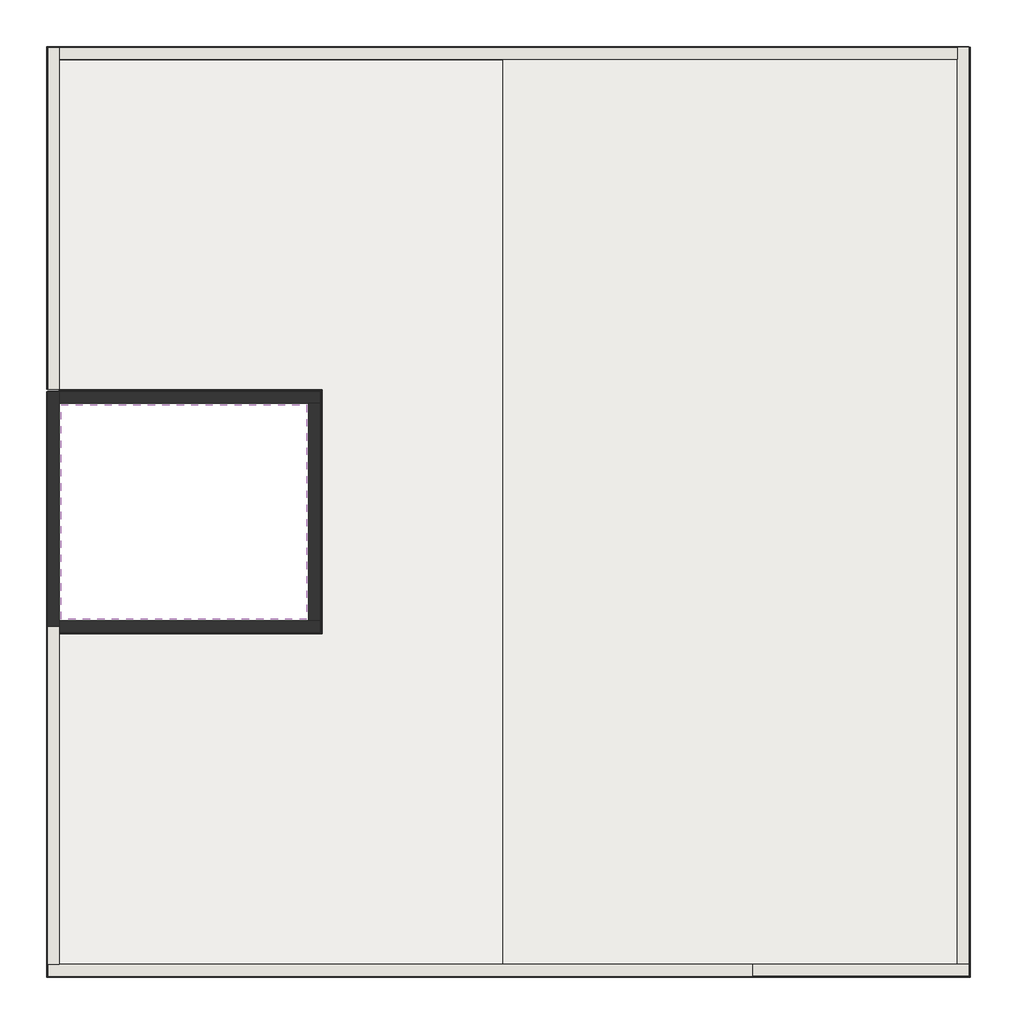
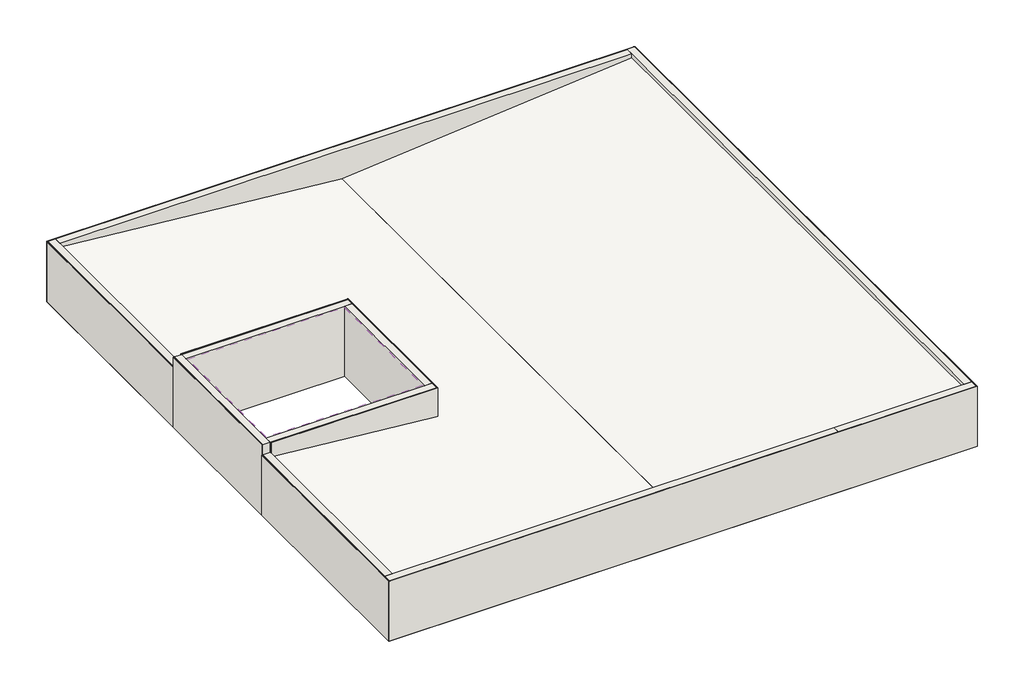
# One storey: 20 walls, 3 coverings.
"""IFC4 building model written with IfcOpenShell, lengths in millimetres."""

import ifcopenshell
import ifcopenshell.guid

model = None  # the IFC model being written
_history = None  # IfcOwnerHistory: only IFC2X3 demands one
_inside = {}  # id of a spatial element -> (the spatial element, [elements in it])
_under = {}  # id of a project, library or spatial element -> (it, [spatial elements below it])
_declared = {}  # id of a project -> (the project, [libraries it declares])
_typed = {}  # id of a type object -> (the type object, [elements of that type])
_made_of = {}  # id of a material, layer set ... -> (it, [elements and type objects made of it])


def new_model(schema):
    """Start an empty IFC model of exactly this schema.

    Asked for "IFC4X3", IfcOpenShell would pick the latest addendum, in which some entities
    have other attributes; the version numbers below select the first issue.
    IFC2X3 requires an IfcOwnerHistory on every rooted entity: one is made here for all.
    """
    global model, _history
    if schema == "IFC4X3":
        model = ifcopenshell.file(schema_version=(4, 3, 0, 0))
    else:
        model = ifcopenshell.file(schema=schema)
    _inside.clear()
    _under.clear()
    _declared.clear()
    _typed.clear()
    _made_of.clear()
    _history = None
    if model.schema == "IFC2X3":
        org = make("IfcOrganization", Name="unknown")
        user = make(
            "IfcPersonAndOrganization",
            ThePerson=make("IfcPerson", FamilyName="unknown"),
            TheOrganization=org,
        )
        app = make(
            "IfcApplication",
            ApplicationDeveloper=org,
            Version="unknown",
            ApplicationFullName="unknown",
            ApplicationIdentifier="unknown",
        )
        _history = make(
            "IfcOwnerHistory",
            OwningUser=user,
            OwningApplication=app,
            ChangeAction="ADDED",
            CreationDate=0,
        )
    return model


def make(cls, **values):
    """One entity of the class cls with the attributes given. An attribute that is None is left unset."""
    return model.create_entity(
        cls, **{name: value for name, value in values.items() if value is not None}
    )


def rooted(cls, **values):
    """An entity with a GlobalId (a new one), such as an element, a storey or a relation."""
    return make(cls, GlobalId=ifcopenshell.guid.new(), OwnerHistory=_history, **values)


def si_unit(unit_type, name, prefix=None):
    """IfcSIUnit, for example si_unit("LENGTHUNIT", "METRE", prefix="MILLI")."""
    return make("IfcSIUnit", UnitType=unit_type, Prefix=prefix, Name=name)


def assignment(units):
    """IfcUnitAssignment: the units of a project."""
    return None if units is None else make("IfcUnitAssignment", Units=units)


def point(xyz):
    """IfcCartesianPoint."""
    return None if xyz is None else make("IfcCartesianPoint", Coordinates=xyz)


def direction(xyz):
    """IfcDirection."""
    return None if xyz is None else make("IfcDirection", DirectionRatios=xyz)


def frame(location, z_axis=None, x_axis=None):
    """IfcAxis2Placement3D, a coordinate frame: its origin and axes. An axis left out is left unset."""
    return make(
        "IfcAxis2Placement3D",
        Location=point(location),
        Axis=direction(z_axis),
        RefDirection=direction(x_axis),
    )


def origin():
    """The frame at (0, 0, 0) with its axes left unset."""
    return frame((0.0, 0.0, 0.0))


def place(relative_to, where):
    """IfcLocalPlacement: puts the frame where relative to a parent placement (None: the world)."""
    return make(
        "IfcLocalPlacement", PlacementRelTo=relative_to, RelativePlacement=where
    )


def context(
    kind, dimensions, precision=None, world=None, true_north=None, identifier=None
):
    """IfcGeometricRepresentationContext, for example the 3D "Model" context."""
    return make(
        "IfcGeometricRepresentationContext",
        ContextIdentifier=identifier,
        ContextType=kind,
        CoordinateSpaceDimension=dimensions,
        Precision=precision,
        WorldCoordinateSystem=world,
        TrueNorth=true_north,
    )


def project(units=None, contexts=None):
    """IfcProject with its units and contexts."""
    return rooted(
        "IfcProject",
        Name="project",
        RepresentationContexts=contexts,
        UnitsInContext=assignment(units),
    )


def spatial(cls, under=None, at=None, **own):
    """A site, building, storey or space (cls), placed at a placement, below another one or the project."""
    s = rooted(cls, ObjectPlacement=at, **own)
    if under is not None:
        _under.setdefault(under.id(), (under, []))[1].append(s)
    return s


def polyline(points):
    """IfcPolyline through the points."""
    return make("IfcPolyline", Points=[point(p) for p in points])


def outline(outer, holes=None, kind="AREA"):
    """IfcArbitraryClosedProfileDef: a profile drawn as a closed curve; with holes, ...WithVoids."""
    if holes is None:
        return make("IfcArbitraryClosedProfileDef", ProfileType=kind, OuterCurve=outer)
    return make(
        "IfcArbitraryProfileDefWithVoids",
        ProfileType=kind,
        OuterCurve=outer,
        InnerCurves=holes,
    )


def extrude(swept, where, along, depth):
    """IfcExtrudedAreaSolid: the profile swept, set in the frame where, extruded along a direction by depth."""
    return make(
        "IfcExtrudedAreaSolid",
        SweptArea=swept,
        Position=where,
        ExtrudedDirection=direction(along),
        Depth=depth,
    )


def faces_of(points, faces, orient=None, outer=None):
    """IfcFace entities. A face is a list of loops; a loop is a list of indices into points, from 0.

    orient and outer hold one flag for each loop. By default every Orientation is true, the
    first loop of a face is its IfcFaceOuterBound and the others are IfcFaceBound.
    """
    made = []
    for i, loops in enumerate(faces):
        bounds = []
        for j, loop in enumerate(loops):
            is_outer = j == 0 if outer is None else outer[i][j]
            bounds.append(
                make(
                    "IfcFaceOuterBound" if is_outer else "IfcFaceBound",
                    Bound=make("IfcPolyLoop", Polygon=[points[k] for k in loop]),
                    Orientation=True if orient is None else orient[i][j],
                )
            )
        made.append(make("IfcFace", Bounds=bounds))
    return made


def faceted_brep(points, faces, orient=None, outer=None, voids=None):
    """IfcFacetedBrep: a solid bounded by flat faces; with voids (closed shells), ...WithVoids."""
    shared = [point(p) for p in points]
    hull = make("IfcClosedShell", CfsFaces=faces_of(shared, faces, orient, outer))
    if voids is None:
        return make("IfcFacetedBrep", Outer=hull)
    return make(
        "IfcFacetedBrepWithVoids",
        Outer=hull,
        Voids=[
            make(cls, CfsFaces=faces_of(shared, fs, o, b)) for cls, fs, o, b in voids
        ],
    )


def shape(context_of_items, identifier, shape_type, items):
    """IfcShapeRepresentation: the items that make up one representation, for example the "Body"."""
    return make(
        "IfcShapeRepresentation",
        ContextOfItems=context_of_items,
        RepresentationIdentifier=identifier,
        RepresentationType=shape_type,
        Items=items,
    )


def made_of(thing, what):
    """Note that an element or type object is made of a material, layer set ...; save() writes the relation."""
    if what is not None:
        _made_of.setdefault(what.id(), (what, []))[1].append(thing)
    return thing


def element(
    cls,
    number,
    at=None,
    inside=None,
    cuts=None,
    type_object=None,
    material=None,
    context=None,
    identifier="Body",
    shape_type=None,
    held_by="IfcProductDefinitionShape",
    body=None,
    shapes=None,
    **own,
):
    """One element of the class cls, such as IfcWall. Its Tag is "e" and its number.

    at: its placement. inside: the storey or other place that contains it. cuts: it is an
    opening in that element (IfcRelVoidsElement). A single representation is given by context,
    identifier, shape_type and body (its items); several are given by shapes. held_by: the class
    of the entity that holds the representations. save() writes the other relations.
    """
    e = rooted(cls, Tag="e%d" % number, ObjectPlacement=at, **own)
    if body is not None:
        shapes = [shape(context, identifier, shape_type, body)]
    if shapes is not None:
        e.Representation = make(held_by, Representations=shapes)
    if inside is not None:
        _inside.setdefault(inside.id(), (inside, []))[1].append(e)
    if cuts is not None:
        rooted(
            "IfcRelVoidsElement", RelatingBuildingElement=cuts, RelatedOpeningElement=e
        )
    if type_object is not None:
        _typed.setdefault(type_object.id(), (type_object, []))[1].append(e)
    return made_of(e, material)


def aggregate(whole, parts):
    """IfcRelAggregates: a whole, such as a stair, and the parts it consists of."""
    return rooted("IfcRelAggregates", RelatingObject=whole, RelatedObjects=parts)


def save(model, path):
    """Write the relations noted so far, then the file.

    IfcRelAggregates (storeys below a building ...), IfcRelContainedInSpatialStructure (elements
    in a storey), IfcRelDefinesByType, IfcRelAssociatesMaterial and IfcRelDeclares: one each for
    every whole, place, type object, material and project.
    """
    for whole, parts in _under.values():
        aggregate(whole, parts)
    for where, things in _inside.values():
        rooted(
            "IfcRelContainedInSpatialStructure",
            RelatedElements=things,
            RelatingStructure=where,
        )
    for kind, things in _typed.values():
        rooted("IfcRelDefinesByType", RelatedObjects=things, RelatingType=kind)
    for what, things in _made_of.values():
        rooted("IfcRelAssociatesMaterial", RelatedObjects=things, RelatingMaterial=what)
    for by, libraries in _declared.values():
        rooted("IfcRelDeclares", RelatingContext=by, RelatedDefinitions=libraries)
    model.write(path)


model = new_model("IFC4")

# Units and contexts
model_context = context("Model", 3, world=origin())
ifc_project = project(units=[si_unit("LENGTHUNIT", "METRE", prefix="MILLI")], contexts=[model_context])

# Site, building, storey
site = spatial("IfcSite", under=ifc_project)
building = spatial("IfcBuilding", under=site)
storey = spatial("IfcBuildingStorey", under=building, Name="2º Pavimento", Elevation=3200.0)

# Coverings
placement = place(None, origin())
element("IfcCovering", 1, ObjectType="Telhado", at=placement, inside=storey, context=model_context, shape_type="SweptSolid", body=[
    extrude(outline(polyline([(34845.9970535, 10927.9995833), (34845.9970535, 8347.9995833), (31885.9970535, 8347.9995833), (31885.9970535, 10927.9995833), (34845.9970535, 10927.9995833)])), frame((0.0, 0.0, 4600.0), z_axis=(0.0, 0.0, 1.0), x_axis=(1.0, 0.0, 0.0)), (0.0, 0.0, 1.0), 20.0),
])
element("IfcCovering", 2, ObjectType="Telhado", at=placement, inside=storey, context=model_context, shape_type="SweptSolid", body=[
    extrude(outline(polyline([(4320.0830764, 42685.9970535), (3820.0830764, 37205.9970535), (3800.0, 37205.9970535), (4300.0, 42685.9970535), (4320.0830764, 42685.9970535)])), frame((0.0, 4187.9995833, 0.0), z_axis=(0.0, 1.0, 0.0), x_axis=(0.0, 0.0, 1.0)), (0.0, 0.0, 1.0), 10900.0),
])
element("IfcCovering", 3, ObjectType="Telhado", at=placement, inside=storey, context=model_context, shape_type="Brep", body=[
    faceted_brep([(37205.9970535, 15081.9995833, 3820.08748), (31865.9970535, 15081.9995833, 4320.08748), (31865.9970535, 11109.9995833, 4320.08748), (35027.9970535, 11109.9995833, 4024.0200643), (35027.9970535, 8171.9995833, 4024.0200643), (31871.9970535, 8171.9995833, 4319.5256822), (31871.9970535, 4187.9995833, 4319.5256822), (37205.9970535, 4187.9995833, 3820.08748), (37205.9970535, 15081.9995833, 3800.0), (37205.9970535, 4187.9995833, 3800.0), (31871.9970535, 4187.9995833, 4299.4382022), (31871.9970535, 8171.9995833, 4299.4382022), (35027.9970535, 8171.9995833, 4003.9325843), (35027.9970535, 11109.9995833, 4003.9325843), (31865.9970535, 11109.9995833, 4300.0), (31865.9970535, 15081.9995833, 4300.0)], [[[0, 1, 2, 3, 4, 5, 6, 7]], [[8, 9, 10, 11, 12, 13, 14, 15]], [[1, 0, 8, 15]], [[2, 1, 15, 14]], [[3, 2, 14, 13]], [[4, 3, 13, 12]], [[5, 4, 12, 11]], [[6, 5, 11, 10]], [[7, 6, 10, 9]], [[0, 7, 9, 8]]]),
])

# Walls
element("IfcWall", 4, ObjectType="Alvenaria Estrutural", at=placement, inside=storey, context=model_context, shape_type="Brep", body=[
    faceted_brep([(40215.9970535, 4187.9995833, 3200.0), (31865.9970535, 4187.9995833, 3200.0), (31725.9970535, 4187.9995833, 3200.0), (31725.9970535, 4187.9995833, 4400.0), (31865.9970535, 4187.9995833, 4400.0), (40215.9970535, 4187.9995833, 4400.0), (40215.9970535, 4047.9995833, 3200.0), (40215.9970535, 4047.9995833, 4400.0), (31725.9970535, 4047.9995833, 4400.0), (31725.9970535, 4047.9995833, 3200.0)], [[[0, 1, 2, 3, 4, 5]], [[6, 7, 8, 9]], [[1, 0, 6, 9, 2]], [[4, 3, 8, 7, 5]], [[0, 5, 7, 6]], [[3, 2, 9, 8]]]),
])
element("IfcWall", 5, ObjectType="Alvenaria Estrutural", at=placement, inside=storey, context=model_context, shape_type="Brep", body=[
    faceted_brep([(31865.9970535, 4187.9995833, 3200.0), (31865.9970535, 8187.9995833, 3200.0), (31865.9970535, 8257.9995833, 3200.0), (31865.9970535, 8257.9995833, 4400.0), (31865.9970535, 8187.9995833, 4400.0), (31865.9970535, 4187.9995833, 4400.0), (31725.9970535, 4187.9995833, 3200.0), (31725.9970535, 4187.9995833, 4400.0), (31725.9970535, 8187.9995833, 4400.0), (31725.9970535, 8257.9995833, 4400.0), (31725.9970535, 8257.9995833, 3200.0), (31725.9970535, 8187.9995833, 3200.0)], [[[0, 1, 2, 3, 4, 5]], [[6, 7, 8, 9, 10, 11]], [[1, 0, 6, 11, 10, 2]], [[3, 2, 10, 9]], [[4, 3, 9, 8, 7, 5]], [[0, 5, 7, 6]]]),
])
element("IfcWall", 6, ObjectType="Alvenaria Estrutural", at=placement, inside=storey, context=model_context, shape_type="SweptSolid", body=[
    extrude(outline(polyline([(42685.9970535, 15087.9995833), (31865.9970535, 15087.9995833), (31865.9970535, 15227.9995833), (42685.9970535, 15227.9995833), (42685.9970535, 15087.9995833)])), frame((0.0, 0.0, 3200.0), z_axis=(0.0, 0.0, 1.0), x_axis=(1.0, 0.0, 0.0)), (0.0, 0.0, 1.0), 1200.0),
])
element("IfcWall", 7, ObjectType="Alvenaria Estrutural", at=placement, inside=storey, context=model_context, shape_type="Brep", body=[
    faceted_brep([(40215.9970535, 4047.9995833, 3200.0), (42825.9970535, 4047.9995833, 3200.0), (42825.9970535, 4047.9995833, 4400.0), (40215.9970535, 4047.9995833, 4400.0), (40215.9970535, 4187.9995833, 3200.0), (40215.9970535, 4187.9995833, 4400.0), (42685.9970535, 4187.9995833, 4400.0), (42825.9970535, 4187.9995833, 4400.0), (42825.9970535, 4187.9995833, 3200.0), (42685.9970535, 4187.9995833, 3200.0)], [[[0, 1, 2, 3]], [[4, 5, 6, 7, 8, 9]], [[1, 0, 4, 9, 8]], [[3, 2, 7, 6, 5]], [[0, 3, 5, 4]], [[2, 1, 8, 7]]]),
])
element("IfcWall", 8, ObjectType="Alvenaria Estrutural", at=placement, inside=storey, context=model_context, shape_type="Brep", body=[
    faceted_brep([(42825.9970535, 4187.9995833, 3200.0), (42825.9970535, 15235.9995833, 3200.0), (42825.9970535, 15242.9995833, 3200.0), (42825.9970535, 15242.9995833, 4400.0), (42825.9970535, 15235.9995833, 4400.0), (42825.9970535, 4187.9995833, 4400.0), (42685.9970535, 4187.9995833, 3200.0), (42685.9970535, 4187.9995833, 4400.0), (42685.9970535, 15087.9995833, 4400.0), (42685.9970535, 15227.9995833, 4400.0), (42685.9970535, 15242.9995833, 4400.0), (42685.9970535, 15242.9995833, 3200.0), (42685.9970535, 15227.9995833, 3200.0), (42685.9970535, 15087.9995833, 3200.0)], [[[0, 1, 2, 3, 4, 5]], [[6, 7, 8, 9, 10, 11, 12, 13]], [[1, 0, 6, 13, 12, 11, 2]], [[4, 3, 10, 9, 8, 7, 5]], [[0, 5, 7, 6]], [[3, 2, 11, 10]]]),
])
element("IfcWall", 9, ObjectType="Alvenaria Estrutural", at=placement, inside=storey, context=model_context, shape_type="Brep", body=[
    faceted_brep([(35005.9970535, 11087.9995833, 3200.0), (31865.9970535, 11087.9995833, 3200.0), (31865.9970535, 11087.9995833, 4400.0), (31865.9970535, 11087.9995833, 4600.0), (35005.9970535, 11087.9995833, 4600.0), (35005.9970535, 11087.9995833, 4400.0), (35005.9970535, 10947.9995833, 3200.0), (34865.9970535, 10947.9995833, 3200.0), (31865.9970535, 10947.9995833, 3200.0), (31865.9970535, 11017.9995833, 3200.0), (31865.9970535, 10947.9995833, 4400.0), (31865.9970535, 10947.9995833, 4600.0), (35005.9970535, 10947.9995833, 4600.0), (35005.9970535, 10947.9995833, 4400.0), (34865.9970535, 10947.9995833, 4600.0)], [[[0, 1, 2, 3, 4, 5]], [[1, 0, 6, 7, 8, 9]], [[2, 1, 9, 8, 10, 11, 3]], [[0, 5, 4, 12, 13, 6]], [[6, 13, 12, 14, 11, 10, 8, 7]], [[4, 3, 11, 14, 12]]]),
])
element("IfcWall", 10, ObjectType="Alvenaria Estrutural", at=placement, inside=storey, context=model_context, shape_type="SweptSolid", body=[
    extrude(outline(polyline([(34865.9970535, 8327.9995833), (34865.9970535, 10947.9995833), (35005.9970535, 10947.9995833), (35005.9970535, 8327.9995833), (34865.9970535, 8327.9995833)])), frame((0.0, 0.0, 3200.0), z_axis=(0.0, 0.0, 1.0), x_axis=(1.0, 0.0, 0.0)), (0.0, 0.0, 1.0), 1400.0),
])
element("IfcWall", 11, ObjectType="Alvenaria Estrutural", at=placement, inside=storey, context=model_context, shape_type="Brep", body=[
    faceted_brep([(35005.9970535, 8327.9995833, 3200.0), (34865.9970535, 8327.9995833, 3200.0), (31865.9970535, 8327.9995833, 3200.0), (31865.9970535, 8327.9995833, 4400.0), (31865.9970535, 8327.9995833, 4600.0), (34865.9970535, 8327.9995833, 4600.0), (35005.9970535, 8327.9995833, 4600.0), (35005.9970535, 8327.9995833, 4400.0), (35005.9970535, 8187.9995833, 3200.0), (31865.9970535, 8187.9995833, 3200.0), (31865.9970535, 8257.9995833, 3200.0), (31865.9970535, 8187.9995833, 4400.0), (31865.9970535, 8187.9995833, 4600.0), (35005.9970535, 8187.9995833, 4600.0), (35005.9970535, 8187.9995833, 4400.0)], [[[0, 1, 2, 3, 4, 5, 6, 7]], [[1, 0, 8, 9, 10, 2]], [[3, 2, 10, 9, 11, 12, 4]], [[0, 7, 6, 13, 14, 8]], [[8, 14, 13, 12, 11, 9]], [[5, 4, 12, 13, 6]]]),
])
element("IfcWall", 12, ObjectType="Alvenaria Estrutural", at=placement, inside=storey, context=model_context, shape_type="Brep", body=[
    faceted_brep([(31865.9970535, 8257.9995833, 3200.0), (31865.9970535, 8327.9995833, 3200.0), (31865.9970535, 10947.9995833, 3200.0), (31865.9970535, 11017.9995833, 3200.0), (31865.9970535, 11017.9995833, 4400.0), (31865.9970535, 11087.9995833, 4400.0), (31865.9970535, 11087.9995833, 4600.0), (31865.9970535, 10947.9995833, 4600.0), (31865.9970535, 8327.9995833, 4600.0), (31865.9970535, 8187.9995833, 4600.0), (31865.9970535, 8187.9995833, 4400.0), (31865.9970535, 8257.9995833, 4400.0), (31725.9970535, 8257.9995833, 3200.0), (31725.9970535, 11017.9995833, 3200.0), (31725.9970535, 11017.9995833, 4400.0), (31725.9970535, 8257.9995833, 4400.0), (31725.9970535, 8187.9995833, 4400.0), (31725.9970535, 8187.9995833, 4600.0), (31725.9970535, 11087.9995833, 4600.0), (31725.9970535, 11087.9995833, 4400.0)], [[[0, 1, 2, 3, 4, 5, 6, 7, 8, 9, 10, 11]], [[1, 0, 12, 13, 3, 2]], [[4, 3, 13, 14]], [[0, 11, 15, 12]], [[12, 15, 16, 17, 18, 19, 14, 13]], [[5, 4, 14, 19]], [[5, 19, 18, 6]], [[7, 6, 18, 17, 9, 8]], [[16, 10, 9, 17]], [[11, 10, 16, 15]]]),
])
element("IfcWall", 13, ObjectType="Alvenaria Estrutural", at=placement, inside=storey, context=model_context, shape_type="Brep", body=[
    faceted_brep([(31865.9970535, 11017.9995833, 3200.0), (31865.9970535, 11087.9995833, 3200.0), (31865.9970535, 11089.2995833, 3200.0), (31865.9970535, 11089.2995833, 4400.0), (31865.9970535, 11087.9995833, 4400.0), (31865.9970535, 11017.9995833, 4400.0), (31725.9970535, 11017.9995833, 3200.0), (31725.9970535, 11017.9995833, 4400.0), (31725.9970535, 11087.9995833, 4400.0), (31725.9970535, 11089.2995833, 4400.0), (31725.9970535, 11089.2995833, 3200.0)], [[[0, 1, 2, 3, 4, 5]], [[6, 7, 8, 9, 10]], [[1, 0, 6, 10, 2]], [[3, 2, 10, 9]], [[4, 3, 9, 8, 7, 5]], [[0, 5, 7, 6]]]),
])
element("IfcWall", 14, ObjectType="Alvenaria Estrutural", at=placement, inside=storey, context=model_context, shape_type="Brep", body=[
    faceted_brep([(31865.9970535, 11114.6995833, 3200.0), (31865.9970535, 15087.9995833, 3200.0), (31865.9970535, 15227.9995833, 3200.0), (31865.9970535, 15227.9995833, 4400.0), (31865.9970535, 15087.9995833, 4400.0), (31865.9970535, 11114.6995833, 4400.0), (31725.9970535, 11114.6995833, 3200.0), (31725.9970535, 11114.6995833, 4400.0), (31725.9970535, 15227.9995833, 4400.0), (31725.9970535, 15227.9995833, 3200.0)], [[[0, 1, 2, 3, 4, 5]], [[6, 7, 8, 9]], [[1, 0, 6, 9, 2]], [[4, 3, 8, 7, 5]], [[0, 5, 7, 6]], [[3, 2, 9, 8]]]),
])
element("IfcWall", 15, ObjectType="Reboco + Pintura Externa", at=placement, inside=storey, context=model_context, shape_type="SolidModel", body=[
    extrude(outline(polyline([(42841.9970535, 4031.9995833), (31710.9970535, 4031.9995833), (31710.9970535, 4032.9995833), (42841.9970535, 4032.9995833), (42841.9970535, 4031.9995833)])), frame((0.0, 0.0, 3200.0), z_axis=(0.0, 0.0, 1.0), x_axis=(1.0, 0.0, 0.0)), (0.0, 0.0, 1.0), 1200.0),
    faceted_brep([(31725.9970535, 4042.9995833, 3200.0), (42830.9970535, 4042.9995833, 3200.0), (42830.9970535, 4042.9995833, 4400.0), (31725.9970535, 4042.9995833, 4400.0), (42825.9970535, 4047.9995833, 3200.0), (42830.9970535, 4047.9995833, 3200.0), (31725.9970535, 4047.9995833, 3200.0), (42825.9970535, 4047.9995833, 4400.0), (31725.9970535, 4047.9995833, 4400.0), (42830.9970535, 4047.9995833, 4400.0)], [[[0, 1, 2, 3]], [[4, 5, 1, 0, 6]], [[7, 8, 3, 2, 9]], [[8, 6, 0, 3]], [[6, 8, 7, 9, 5, 4]], [[5, 9, 2, 1]]]),
    extrude(outline(polyline([(31720.9970535, 4032.9995833), (31720.9970535, 4042.9995833), (42840.9970535, 4042.9995833), (42840.9970535, 4032.9995833), (31720.9970535, 4032.9995833)])), frame((0.0, 0.0, 3200.0), z_axis=(0.0, 0.0, 1.0), x_axis=(1.0, 0.0, 0.0)), (0.0, 0.0, 1.0), 1200.0),
])
element("IfcWall", 16, ObjectType="Reboco + Pintura Externa", at=placement, inside=storey, context=model_context, shape_type="SolidModel", body=[
    extrude(outline(polyline([(42841.9970535, 15235.9995833), (42841.9970535, 4032.9995833), (42840.9970535, 4032.9995833), (42840.9970535, 15235.9995833), (42841.9970535, 15235.9995833)])), frame((0.0, 0.0, 3200.0), z_axis=(0.0, 0.0, 1.0), x_axis=(1.0, 0.0, 0.0)), (0.0, 0.0, 1.0), 1200.0),
    faceted_brep([(42830.9970535, 4047.9995833, 3200.0), (42830.9970535, 15235.9995833, 3200.0), (42830.9970535, 15235.9995833, 4400.0), (42830.9970535, 4047.9995833, 4400.0), (42825.9970535, 4187.9995833, 3200.0), (42825.9970535, 15235.9995833, 3200.0), (42825.9970535, 4047.9995833, 3200.0), (42825.9970535, 15235.9995833, 4400.0), (42825.9970535, 4187.9995833, 4400.0), (42825.9970535, 4047.9995833, 4400.0)], [[[0, 1, 2, 3]], [[4, 5, 1, 0, 6]], [[5, 7, 2, 1]], [[8, 9, 3, 2, 7]], [[9, 6, 0, 3]], [[6, 9, 8, 7, 5, 4]]]),
    extrude(outline(polyline([(42840.9970535, 4042.9995833), (42830.9970535, 4042.9995833), (42830.9970535, 15235.9995833), (42840.9970535, 15235.9995833), (42840.9970535, 4042.9995833)])), frame((0.0, 0.0, 3200.0), z_axis=(0.0, 0.0, 1.0), x_axis=(1.0, 0.0, 0.0)), (0.0, 0.0, 1.0), 1200.0),
])
element("IfcWall", 17, ObjectType="Reboco + Pintura Externa", at=placement, inside=storey, context=model_context, shape_type="SolidModel", body=[
    extrude(outline(polyline([(31709.9970535, 15243.9995833), (42825.9970535, 15243.9995833), (42825.9970535, 15242.9995833), (31709.9970535, 15242.9995833), (31709.9970535, 15243.9995833)])), frame((0.0, 0.0, 3200.0), z_axis=(0.0, 0.0, 1.0), x_axis=(1.0, 0.0, 0.0)), (0.0, 0.0, 1.0), 1200.0),
    faceted_brep([(42685.9970535, 15232.9995833, 3200.0), (31720.9970535, 15232.9995833, 3200.0), (31720.9970535, 15232.9995833, 4400.0), (42685.9970535, 15232.9995833, 4400.0), (31725.9970535, 15227.9995833, 3200.0), (31720.9970535, 15227.9995833, 3200.0), (42685.9970535, 15227.9995833, 3200.0), (31865.9970535, 15227.9995833, 3200.0), (31865.9970535, 15227.9995833, 4400.0), (42685.9970535, 15227.9995833, 4400.0), (31720.9970535, 15227.9995833, 4400.0), (31725.9970535, 15227.9995833, 4400.0)], [[[0, 1, 2, 3]], [[4, 5, 1, 0, 6, 7]], [[8, 9, 3, 2, 10, 11]], [[9, 6, 0, 3]], [[6, 9, 8, 11, 10, 5, 4, 7]], [[5, 10, 2, 1]]]),
    extrude(outline(polyline([(42685.9970535, 15242.9995833), (42685.9970535, 15232.9995833), (31710.9970535, 15232.9995833), (31710.9970535, 15242.9995833), (42685.9970535, 15242.9995833)])), frame((0.0, 0.0, 3200.0), z_axis=(0.0, 0.0, 1.0), x_axis=(1.0, 0.0, 0.0)), (0.0, 0.0, 1.0), 1200.0),
])
element("IfcWall", 18, ObjectType="Reboco + Pintura Externa", at=placement, inside=storey, context=model_context, shape_type="SolidModel", body=[
    extrude(outline(polyline([(31865.9970535, 11109.9995833), (35027.9970535, 11109.9995833), (35027.9970535, 11108.9995833), (31865.9970535, 11108.9995833), (31865.9970535, 11109.9995833)])), frame((0.0, 0.0, 3200.0), z_axis=(0.0, 0.0, 1.0), x_axis=(1.0, 0.0, 0.0)), (0.0, 0.0, 1.0), 1400.0),
    faceted_brep([(35016.9970535, 11098.9995833, 3200.0), (31865.9970535, 11098.9995833, 3200.0), (31865.9970535, 11098.9995833, 4600.0), (35016.9970535, 11098.9995833, 4600.0), (35011.9970535, 11093.9995833, 3200.0), (31865.9970535, 11093.9995833, 3200.0), (35016.9970535, 11093.9995833, 3200.0), (35011.9970535, 11093.9995833, 4600.0), (35016.9970535, 11093.9995833, 4600.0), (31865.9970535, 11093.9995833, 4600.0)], [[[0, 1, 2, 3]], [[4, 5, 1, 0, 6]], [[7, 8, 3, 2, 9]], [[5, 9, 2, 1]], [[5, 4, 6, 8, 7, 9]], [[8, 6, 0, 3]]]),
    extrude(outline(polyline([(31865.9970535, 11098.9995833), (31865.9970535, 11108.9995833), (35026.9970535, 11108.9995833), (35026.9970535, 11098.9995833), (31865.9970535, 11098.9995833)])), frame((0.0, 0.0, 3200.0), z_axis=(0.0, 0.0, 1.0), x_axis=(1.0, 0.0, 0.0)), (0.0, 0.0, 1.0), 1400.0),
])
element("IfcWall", 19, ObjectType="Reboco + Pintura Externa", at=placement, inside=storey, context=model_context, shape_type="SolidModel", body=[
    extrude(outline(polyline([(35027.9970535, 11108.9995833), (35027.9970535, 8171.9995833), (35026.9970535, 8171.9995833), (35026.9970535, 11108.9995833), (35027.9970535, 11108.9995833)])), frame((0.0, 0.0, 3200.0), z_axis=(0.0, 0.0, 1.0), x_axis=(1.0, 0.0, 0.0)), (0.0, 0.0, 1.0), 1400.0),
    faceted_brep([(35016.9970535, 8182.9995833, 3200.0), (35016.9970535, 11093.9995833, 3200.0), (35016.9970535, 11093.9995833, 4600.0), (35016.9970535, 8182.9995833, 4600.0), (35011.9970535, 8187.9995833, 3200.0), (35011.9970535, 11093.9995833, 3200.0), (35011.9970535, 8182.9995833, 3200.0), (35011.9970535, 8187.9995833, 4600.0), (35011.9970535, 8182.9995833, 4600.0), (35011.9970535, 11093.9995833, 4600.0)], [[[0, 1, 2, 3]], [[4, 5, 1, 0, 6]], [[7, 8, 3, 2, 9]], [[5, 9, 2, 1]], [[5, 4, 6, 8, 7, 9]], [[8, 6, 0, 3]]]),
    extrude(outline(polyline([(35016.9970535, 11098.9995833), (35026.9970535, 11098.9995833), (35026.9970535, 8172.9995833), (35016.9970535, 8172.9995833), (35016.9970535, 11098.9995833)])), frame((0.0, 0.0, 3200.0), z_axis=(0.0, 0.0, 1.0), x_axis=(1.0, 0.0, 0.0)), (0.0, 0.0, 1.0), 1400.0),
])
element("IfcWall", 20, ObjectType="Reboco + Pintura Externa", at=placement, inside=storey, context=model_context, shape_type="SweptSolid", body=[
    extrude(outline(polyline([(35026.9970535, 8171.9995833), (31871.9970535, 8171.9995833), (31871.9970535, 8172.9995833), (35026.9970535, 8172.9995833), (35026.9970535, 8171.9995833)])), frame((0.0, 0.0, 3200.0), z_axis=(0.0, 0.0, 1.0), x_axis=(1.0, 0.0, 0.0)), (0.0, 0.0, 1.0), 1400.0),
    extrude(outline(polyline([(31871.9970535, 8187.9995833), (35011.9970535, 8187.9995833), (35011.9970535, 8182.9995833), (31871.9970535, 8182.9995833), (31871.9970535, 8187.9995833)])), frame((0.0, 0.0, 3200.0), z_axis=(0.0, 0.0, 1.0), x_axis=(1.0, 0.0, 0.0)), (0.0, 0.0, 1.0), 1400.0),
    extrude(outline(polyline([(35016.9970535, 8182.9995833), (35016.9970535, 8172.9995833), (31871.9970535, 8172.9995833), (31871.9970535, 8182.9995833), (35016.9970535, 8182.9995833)])), frame((0.0, 0.0, 3200.0), z_axis=(0.0, 0.0, 1.0), x_axis=(1.0, 0.0, 0.0)), (0.0, 0.0, 1.0), 1400.0),
])
element("IfcWall", 21, ObjectType="Reboco + Pintura Externa", at=placement, inside=storey, context=model_context, shape_type="SolidModel", body=[
    extrude(outline(polyline([(31709.9970535, 4031.9995833), (31709.9970535, 8187.9995833), (31710.9970535, 8187.9995833), (31710.9970535, 4031.9995833), (31709.9970535, 4031.9995833)])), frame((0.0, 0.0, 3200.0), z_axis=(0.0, 0.0, 1.0), x_axis=(1.0, 0.0, 0.0)), (0.0, 0.0, 1.0), 1200.0),
    faceted_brep([(31720.9970535, 8187.9995833, 3200.0), (31720.9970535, 4042.9995833, 3200.0), (31720.9970535, 4042.9995833, 4400.0), (31720.9970535, 8187.9995833, 4400.0), (31725.9970535, 4047.9995833, 3200.0), (31725.9970535, 4042.9995833, 3200.0), (31725.9970535, 8187.9995833, 3200.0), (31725.9970535, 4187.9995833, 3200.0), (31725.9970535, 4187.9995833, 4400.0), (31725.9970535, 8187.9995833, 4400.0), (31725.9970535, 4042.9995833, 4400.0), (31725.9970535, 4047.9995833, 4400.0)], [[[0, 1, 2, 3]], [[4, 5, 1, 0, 6, 7]], [[8, 9, 3, 2, 10, 11]], [[9, 6, 0, 3]], [[6, 9, 8, 11, 10, 5, 4, 7]], [[5, 10, 2, 1]]]),
    extrude(outline(polyline([(31710.9970535, 8187.9995833), (31720.9970535, 8187.9995833), (31720.9970535, 4032.9995833), (31710.9970535, 4032.9995833), (31710.9970535, 8187.9995833)])), frame((0.0, 0.0, 3200.0), z_axis=(0.0, 0.0, 1.0), x_axis=(1.0, 0.0, 0.0)), (0.0, 0.0, 1.0), 1200.0),
])
element("IfcWall", 22, ObjectType="Reboco + Pintura Externa", at=placement, inside=storey, context=model_context, shape_type="SweptSolid", body=[
    extrude(outline(polyline([(31709.9970535, 11113.3995833), (31709.9970535, 15242.9995833), (31710.9970535, 15242.9995833), (31710.9970535, 11113.3995833), (31709.9970535, 11113.3995833)])), frame((0.0, 0.0, 3200.0), z_axis=(0.0, 0.0, 1.0), x_axis=(1.0, 0.0, 0.0)), (0.0, 0.0, 1.0), 1200.0),
    extrude(outline(polyline([(31725.9970535, 15227.9995833), (31725.9970535, 11113.3995833), (31720.9970535, 11113.3995833), (31720.9970535, 15227.9995833), (31725.9970535, 15227.9995833)])), frame((0.0, 0.0, 3200.0), z_axis=(0.0, 0.0, 1.0), x_axis=(1.0, 0.0, 0.0)), (0.0, 0.0, 1.0), 1200.0),
    extrude(outline(polyline([(31710.9970535, 15232.9995833), (31720.9970535, 15232.9995833), (31720.9970535, 11113.3995833), (31710.9970535, 11113.3995833), (31710.9970535, 15232.9995833)])), frame((0.0, 0.0, 3200.0), z_axis=(0.0, 0.0, 1.0), x_axis=(1.0, 0.0, 0.0)), (0.0, 0.0, 1.0), 1200.0),
])
element("IfcWall", 23, ObjectType="Reboco + Pintura Externa", at=placement, inside=storey, context=model_context, shape_type="SweptSolid", body=[
    extrude(outline(polyline([(31709.9970535, 8195.9995833), (31709.9970535, 11087.9995833), (31710.9970535, 11087.9995833), (31710.9970535, 8195.9995833), (31709.9970535, 8195.9995833)])), frame((0.0, 0.0, 3200.0), z_axis=(0.0, 0.0, 1.0), x_axis=(1.0, 0.0, 0.0)), (0.0, 0.0, 1.0), 1400.0),
    extrude(outline(polyline([(31725.9970535, 11087.9995833), (31725.9970535, 8195.9995833), (31720.9970535, 8195.9995833), (31720.9970535, 11087.9995833), (31725.9970535, 11087.9995833)])), frame((0.0, 0.0, 3200.0), z_axis=(0.0, 0.0, 1.0), x_axis=(1.0, 0.0, 0.0)), (0.0, 0.0, 1.0), 1400.0),
    extrude(outline(polyline([(31710.9970535, 11087.9995833), (31720.9970535, 11087.9995833), (31720.9970535, 8195.9995833), (31710.9970535, 8195.9995833), (31710.9970535, 11087.9995833)])), frame((0.0, 0.0, 3200.0), z_axis=(0.0, 0.0, 1.0), x_axis=(1.0, 0.0, 0.0)), (0.0, 0.0, 1.0), 1400.0),
])

save(model, "model.ifc")
